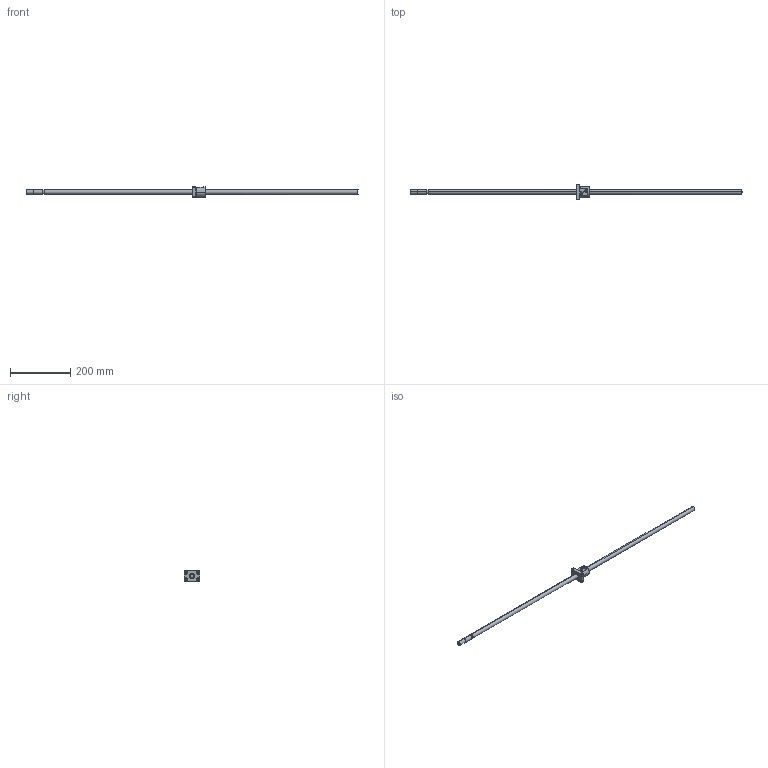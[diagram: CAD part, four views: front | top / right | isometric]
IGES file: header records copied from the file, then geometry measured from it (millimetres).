
Global section: file name: No Iges File Name specified; native system: AutoDesk Inventor R10; preprocessor: AutoDesk Inventor Iges Exporter R10; author: No Author specified; organization: No Organization specified; date: 20101224.140510; units: millimetre
Bounding box: 1100 x 50 x 34 mm (x, y, z)
Surface area: 63935 mm2 (no closed solid volume)
Topology: 0 solids, 0 shells, 133 faces, 960 edges, 960 vertices
Faces by surface type: bspline 133
